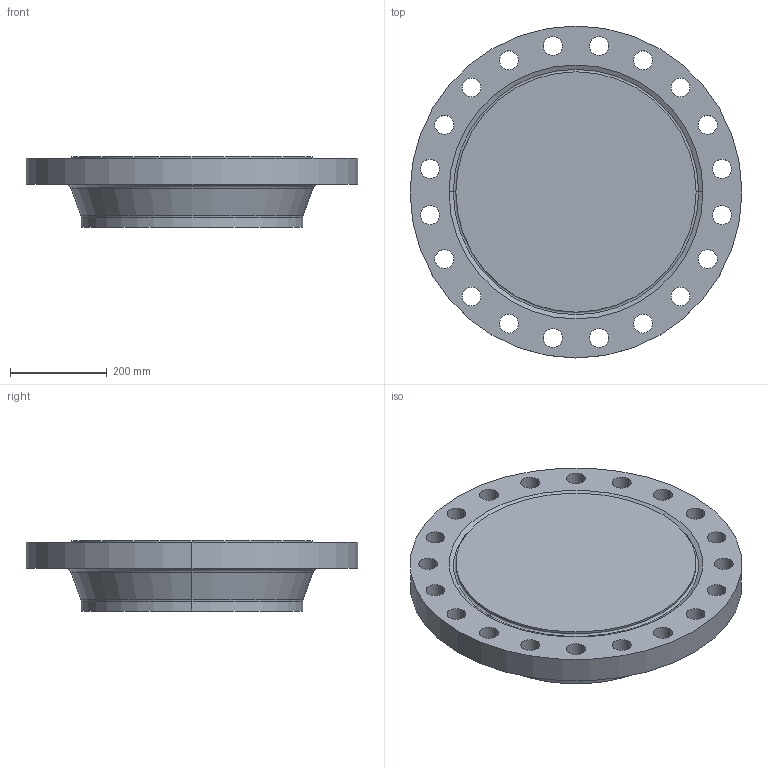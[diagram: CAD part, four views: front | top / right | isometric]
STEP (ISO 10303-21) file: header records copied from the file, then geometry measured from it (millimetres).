
FILE_DESCRIPTION (( 'STEP AP214' ), '1' );
FILE_NAME ('PN40 DN450 Type 21(ii) - Type H Face.STEP', '2018-12-29T04:49:38', ( '' ), ( '' ), 'SwSTEP 2.0', 'SolidWorks 2019', '' );
FILE_SCHEMA (( 'AUTOMOTIVE_DESIGN' ));
Length unit declared in the file: millimetre
Products named in the file (1): PN40 DN450 Type 21(ii) - Type H Face
Bounding box: 685 x 685 x 145 mm (x, y, z)
Volume: 34757086.3 mm3; surface area: 1047784.6 mm2
Topology: 1 solids, 1 shells, 60 faces, 158 edges, 102 vertices
Faces by surface type: cylinder 46, torus 6, cone 4, plane 4
Entity records: 2024 total; most frequent: DIRECTION 388, CARTESIAN_POINT 321, ORIENTED_EDGE 316, AXIS2_PLACEMENT_3D 169, EDGE_CURVE 158, CIRCLE 108, EDGE_LOOP 102, VERTEX_POINT 102
